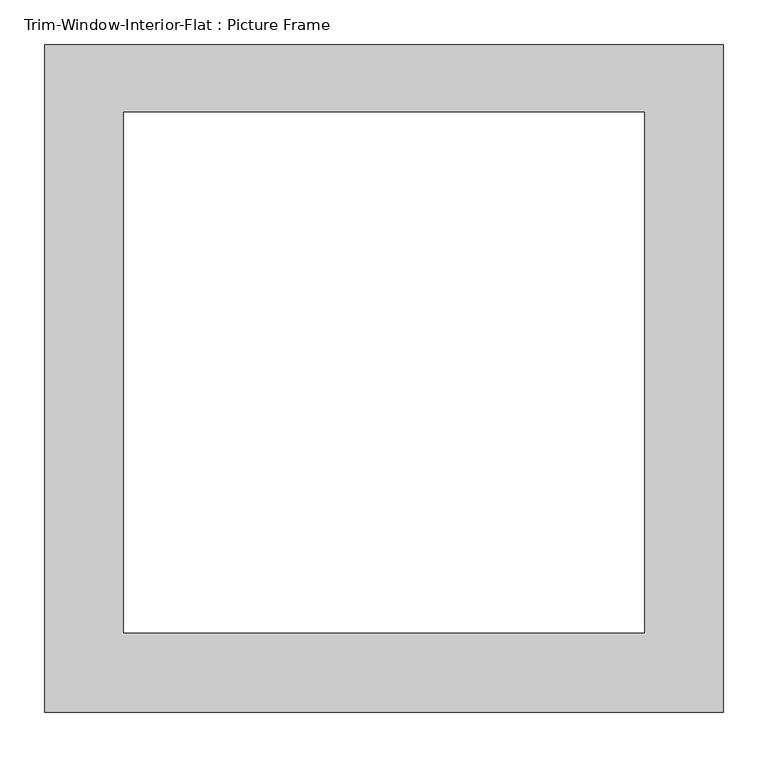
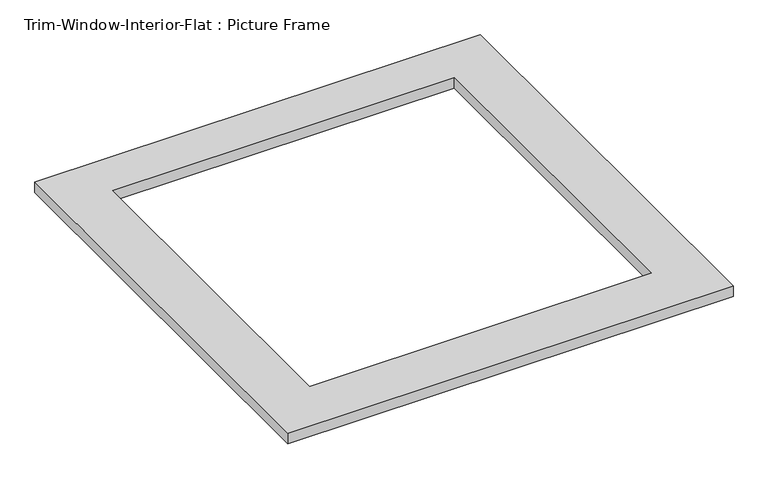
"""IFC4 building model written with IfcOpenShell, lengths in millimetres: proxy geometry, Trim-Window-Interior-Flat : Picture Frame."""

from ifc_helpers import new_model, si_unit, origin, origin_with_axes, place, context, project, spatial, polyline, outline, extrude, source, transform, mapped, element, save


def trim_window_interior_flat_picture_frame_7b48024e(model_context):
    return source(origin(), model_context, "Body", "SweptSolid", [
        extrude(outline(polyline([(381.0, 63.5), (381.0, -685.8), (-381.0, -685.8), (-381.0, 63.5), (381.0, 63.5)]), holes=[polyline([(292.1, -12.7), (-292.1, -12.7), (-292.1, -596.9), (292.1, -596.9), (292.1, -12.7)])]), origin_with_axes(), (0.0, 0.0, 1.0), 19.05),
    ])


if __name__ == "__main__":
    model = new_model("IFC4")
    model_context = context("Model", 3, world=origin())
    ifc_project = project(units=[si_unit("LENGTHUNIT", "METRE", prefix="MILLI")], contexts=[model_context])
    site = spatial("IfcSite", under=ifc_project)
    building = spatial("IfcBuilding", under=site)
    placement = place(None, origin())
    trim_window_interior_flat_picture_frame_shape = trim_window_interior_flat_picture_frame_7b48024e(model_context)
    element("IfcBuildingElementProxy", 1, Name="Trim-Window-Interior-Flat : Picture Frame", ObjectType="Trim-Window-Interior-Flat : Picture Frame", at=placement, inside=building, context=model_context, shape_type="MappedRepresentation", body=[
        mapped(trim_window_interior_flat_picture_frame_shape, transform((0.0, 0.0, 0.0), x_axis=(1.0, 0.0, 0.0), y_axis=(0.0, 1.0, 0.0), z_axis=(0.0, 0.0, 1.0))),
    ])
    save(model, "model.ifc")
